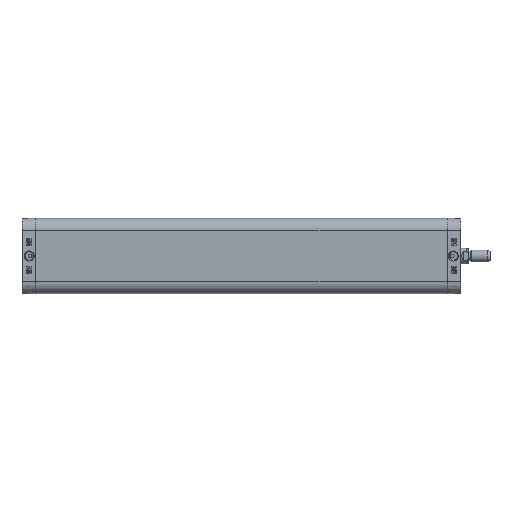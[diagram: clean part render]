
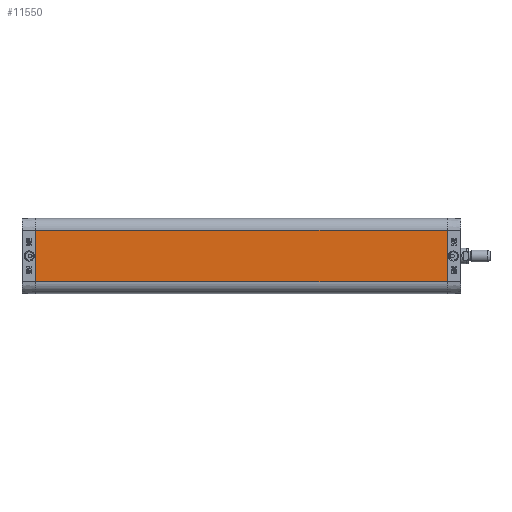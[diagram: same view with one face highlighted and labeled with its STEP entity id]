
A CAD part, left-side view. The second image highlights one B-rep face of the part: STEP entity #11550.
In plain terms, the highlighted planar face has unit normal (-1, 0, 0).
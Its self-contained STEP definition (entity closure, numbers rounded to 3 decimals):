
#5866=CARTESIAN_POINT('',(-38.5,-421.5,26.5));
#5867=VERTEX_POINT('',#5866);
#5874=CARTESIAN_POINT('',(-38.5,-421.5,-26.5));
#5875=VERTEX_POINT('',#5874);
#5876=CARTESIAN_POINT('',(-38.5,-421.5,-26.5));
#5877=DIRECTION('',(0.0,0.0,1.0));
#5878=VECTOR('',#5877,53.0);
#5879=LINE('',#5876,#5878);
#5880=EDGE_CURVE('',#5875,#5867,#5879,.T.);
#11508=CARTESIAN_POINT('',(-38.5,0.0,-26.5));
#11509=VERTEX_POINT('',#11508);
#11510=CARTESIAN_POINT('',(-38.5,0.0,-26.5));
#11511=DIRECTION('',(0.0,-1.0,0.0));
#11512=VECTOR('',#11511,421.5);
#11513=LINE('',#11510,#11512);
#11514=EDGE_CURVE('',#11509,#5875,#11513,.T.);
#11527=CARTESIAN_POINT('',(-38.5,0.0,-26.5));
#11528=DIRECTION('',(-1.0,0.0,0.0));
#11529=DIRECTION('',(0.0,0.0,1.0));
#11530=AXIS2_PLACEMENT_3D('',#11527,#11528,#11529);
#11531=PLANE('',#11530);
#11532=ORIENTED_EDGE('',*,*,#5880,.T.);
#11533=CARTESIAN_POINT('',(-38.5,0.0,26.5));
#11534=VERTEX_POINT('',#11533);
#11535=CARTESIAN_POINT('',(-38.5,0.0,26.5));
#11536=DIRECTION('',(0.0,-1.0,0.0));
#11537=VECTOR('',#11536,421.5);
#11538=LINE('',#11535,#11537);
#11539=EDGE_CURVE('',#11534,#5867,#11538,.T.);
#11540=ORIENTED_EDGE('',*,*,#11539,.F.);
#11541=CARTESIAN_POINT('',(-38.5,0.0,-26.5));
#11542=DIRECTION('',(0.0,0.0,1.0));
#11543=VECTOR('',#11542,53.0);
#11544=LINE('',#11541,#11543);
#11545=EDGE_CURVE('',#11509,#11534,#11544,.T.);
#11546=ORIENTED_EDGE('',*,*,#11545,.F.);
#11547=ORIENTED_EDGE('',*,*,#11514,.T.);
#11548=EDGE_LOOP('',(#11532,#11540,#11546,#11547));
#11549=FACE_OUTER_BOUND('',#11548,.T.);
#11550=ADVANCED_FACE('',(#11549),#11531,.T.);
